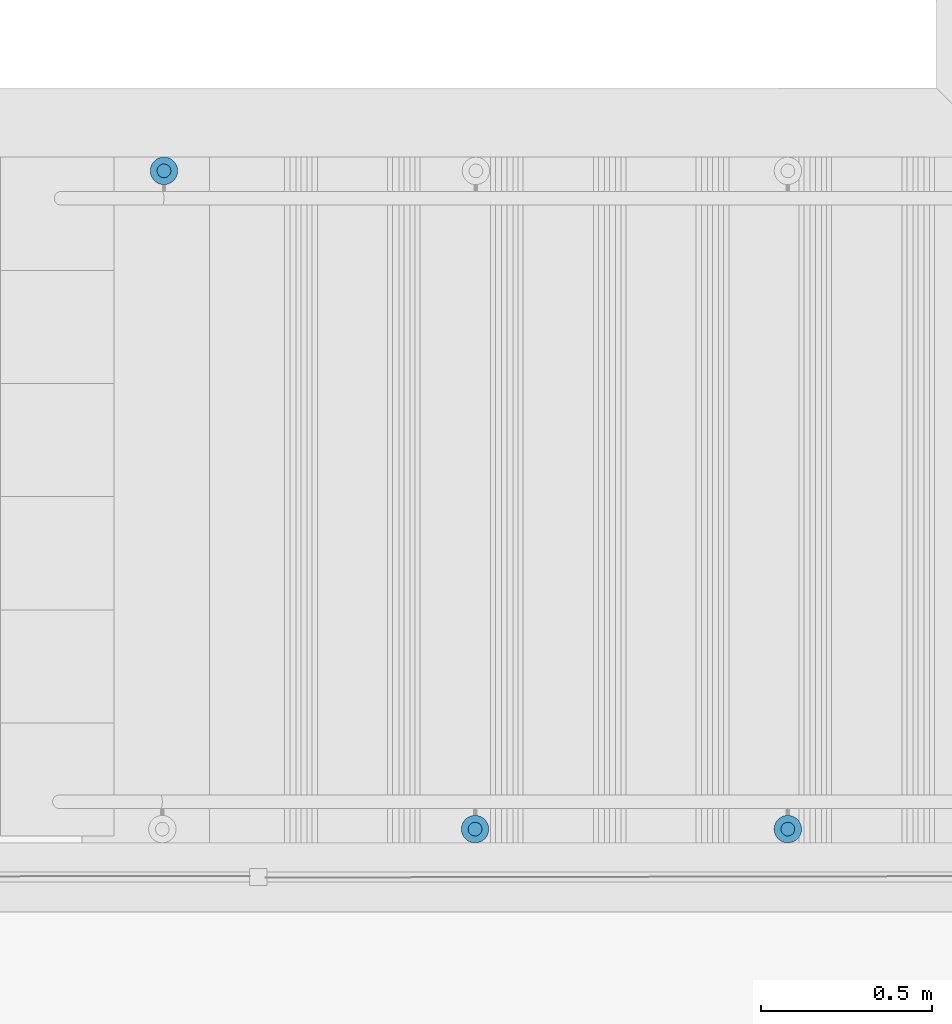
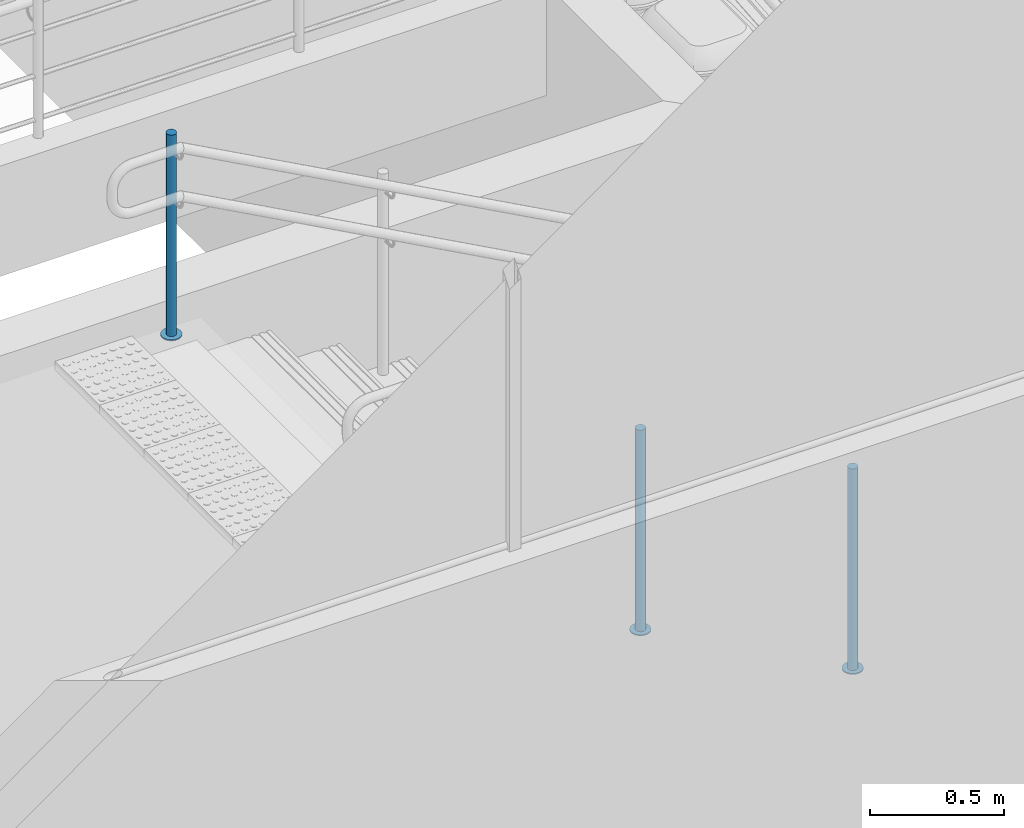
# One storey, part 107 of 237: 6 building element parts, 2 elements without a shape of their own.
"""IFC2X3 building model written with IfcOpenShell, lengths in millimetres."""

from ifc_helpers import new_model, entity, si_unit, converted_unit, derived_unit, money_unit, direction, frame, origin_with_axes, place, context, subcontext, project, spatial, faceted_brep, material, type_object, element, aggregate, save


model = new_model("IFC2X3")

# Units and contexts
model_context = context("Model", 3, precision=0.01, world=origin_with_axes(), true_north=direction((0.0, 1.0)))
body_context = subcontext(model_context, "Body", "Model", "MODEL_VIEW")
ifc_project = project(units=[si_unit("LENGTHUNIT", "METRE", prefix="MILLI"), si_unit("AREAUNIT", "SQUARE_METRE"), si_unit("VOLUMEUNIT", "CUBIC_METRE"), converted_unit("PLANEANGLEUNIT", "DEGREE", entity("IfcPlaneAngleMeasure", 0.0174532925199), si_unit("PLANEANGLEUNIT", "RADIAN"), dimensions=[0, 0, 0, 0, 0, 0, 0]), money_unit("USD"), converted_unit("TIMEUNIT", "Year", entity("IfcTimeMeasure", 31556926.0), si_unit("TIMEUNIT", "SECOND"), dimensions=[0, 0, 1, 0, 0, 0, 0]), si_unit("MASSUNIT", "GRAM", prefix="KILO"), si_unit("THERMODYNAMICTEMPERATUREUNIT", "DEGREE_CELSIUS"), si_unit("LUMINOUSINTENSITYUNIT", "LUMEN"), si_unit("ENERGYUNIT", "JOULE", prefix="MEGA"), derived_unit("THERMALCONDUCTANCEUNIT", [(si_unit("POWERUNIT", "WATT"), 1), (si_unit("LENGTHUNIT", "METRE"), -1), (si_unit("THERMODYNAMICTEMPERATUREUNIT", "KELVIN"), -1)]), derived_unit("SPECIFICHEATCAPACITYUNIT", [(si_unit("ENERGYUNIT", "JOULE"), 1), (si_unit("MASSUNIT", "GRAM", prefix="KILO"), -1), (si_unit("THERMODYNAMICTEMPERATUREUNIT", "KELVIN"), -1)]), derived_unit("MASSDENSITYUNIT", [(si_unit("MASSUNIT", "GRAM", prefix="KILO"), 1), (si_unit("VOLUMEUNIT", "CUBIC_METRE"), -1)])], contexts=[model_context])

# Site, building, storey
site_placement = place(None, origin_with_axes())
site = spatial("IfcSite", under=ifc_project, at=site_placement, Name="Local", CompositionType="ELEMENT")
building_placement = place(site_placement, origin_with_axes())
building = spatial("IfcBuilding", under=site, at=building_placement, Name="Construção", CompositionType="ELEMENT")
storey_placement = place(building_placement, origin_with_axes())
storey = spatial("IfcBuildingStorey", under=building, at=storey_placement, Name="Pavimento Térreo", CompositionType="ELEMENT", Elevation=0.0)

# Railing, building element parts
railing_type = type_object("IfcRailingType", Name="Tipo de Guarda-Corpo", PredefinedType="NOTDEFINED")
railing_1_placement = place(storey_placement, frame((66896.327552, 25657.5940361, -3366.72358116), z_axis=(0.0, 0.0, 1.0), x_axis=(1.0, 0.0, 0.0)))
railing_1 = element("IfcRailing", 1, at=railing_1_placement, inside=storey, type_object=railing_type, Name="Guarda-Corpo - 002", PredefinedType="NOTDEFINED")
ifc_material_1 = material(Name="Aço - Inoxidável")
building_element_part_1_placement = place(railing_1_placement, origin_with_axes())
building_element_part_1 = element("IfcBuildingElementPart", 2, at=building_element_part_1_placement, material=ifc_material_1, Name="Aço - Inoxidável", context=body_context, shape_type="Brep", body=[
    faceted_brep([(-3677.57125977, -20.3038449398, 2008.60429594), (-3681.04422333, -20.0, 2008.60429594), (-3681.04422333, -20.0, 2923.60429594), (-3677.57125977, -20.3038449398, 2923.60429594), (-3684.51718688, -20.3038449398, 2008.60429594), (-3674.20382046, -21.2061475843, 2008.60429594), (-3671.04422333, -22.6794919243, 2008.60429594), (-3668.18847113, -24.6791111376, 2008.60429594), (-3665.72333446, -27.1442478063, 2008.60429594), (-3663.72371525, -30.0, 2008.60429594), (-3662.25037091, -33.1595971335, 2008.60429594), (-3661.34806827, -36.5270364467, 2008.60429594), (-3661.04422333, -40.0, 2008.60429594), (-3661.34806827, -43.4729635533, 2008.60429594), (-3662.25037091, -46.8404028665, 2008.60429594), (-3663.72371525, -50.0, 2008.60429594), (-3665.72333446, -52.8557521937, 2008.60429594), (-3668.18847113, -55.3208888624, 2008.60429594), (-3671.04422333, -57.3205080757, 2008.60429594), (-3674.20382046, -58.7938524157, 2008.60429594), (-3677.57125977, -59.6961550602, 2008.60429594), (-3681.04422333, -60.0, 2008.60429594), (-3684.51718688, -59.6961550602, 2008.60429594), (-3687.88462619, -58.7938524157, 2008.60429594), (-3691.04422333, -57.3205080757, 2008.60429594), (-3693.89997552, -55.3208888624, 2008.60429594), (-3696.36511219, -52.8557521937, 2008.60429594), (-3698.3647314, -50.0, 2008.60429594), (-3699.83807574, -46.8404028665, 2008.60429594), (-3700.74037839, -43.4729635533, 2008.60429594), (-3701.04422333, -40.0, 2008.60429594), (-3700.74037839, -36.5270364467, 2008.60429594), (-3699.83807574, -33.1595971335, 2008.60429594), (-3698.3647314, -30.0, 2008.60429594), (-3696.36511219, -27.1442478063, 2008.60429594), (-3693.89997552, -24.6791111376, 2008.60429594), (-3691.04422333, -22.6794919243, 2008.60429594), (-3687.88462619, -21.2061475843, 2008.60429594), (-3684.51718688, -20.3038449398, 2923.60429594), (-3661.34806827, -43.4729635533, 2923.60429594), (-3661.04422333, -40.0, 2923.60429594), (-3661.34806827, -36.5270364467, 2923.60429594), (-3662.25037091, -33.1595971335, 2923.60429594), (-3663.72371525, -30.0, 2923.60429594), (-3665.72333446, -27.1442478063, 2923.60429594), (-3668.18847113, -24.6791111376, 2923.60429594), (-3671.04422333, -22.6794919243, 2923.60429594), (-3674.20382046, -21.2061475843, 2923.60429594), (-3687.88462619, -21.2061475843, 2923.60429594), (-3691.04422333, -22.6794919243, 2923.60429594), (-3693.89997552, -24.6791111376, 2923.60429594), (-3696.36511219, -27.1442478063, 2923.60429594), (-3698.3647314, -30.0, 2923.60429594), (-3699.83807574, -33.1595971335, 2923.60429594), (-3700.74037839, -36.5270364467, 2923.60429594), (-3701.04422333, -40.0, 2923.60429594), (-3700.74037839, -43.4729635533, 2923.60429594), (-3699.83807574, -46.8404028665, 2923.60429594), (-3698.3647314, -50.0, 2923.60429594), (-3696.36511219, -52.8557521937, 2923.60429594), (-3693.89997552, -55.3208888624, 2923.60429594), (-3691.04422333, -57.3205080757, 2923.60429594), (-3687.88462619, -58.7938524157, 2923.60429594), (-3684.51718688, -59.6961550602, 2923.60429594), (-3681.04422333, -60.0, 2923.60429594), (-3677.57125977, -59.6961550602, 2923.60429594), (-3674.20382046, -58.7938524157, 2923.60429594), (-3671.04422333, -57.3205080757, 2923.60429594), (-3668.18847113, -55.3208888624, 2923.60429594), (-3665.72333446, -52.8557521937, 2923.60429594), (-3663.72371525, -50.0, 2923.60429594), (-3662.25037091, -46.8404028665, 2923.60429594)], [[[0, 1, 2, 3]], [[4, 1, 0, 5, 6, 7, 8, 9, 10, 11, 12, 13, 14, 15, 16, 17, 18, 19, 20, 21, 22, 23, 24, 25, 26, 27, 28, 29, 30, 31, 32, 33, 34, 35, 36, 37]], [[1, 4, 38, 2]], [[39, 40, 41, 42, 43, 44, 45, 46, 47, 3, 2, 38, 48, 49, 50, 51, 52, 53, 54, 55, 56, 57, 58, 59, 60, 61, 62, 63, 64, 65, 66, 67, 68, 69, 70, 71]], [[5, 0, 3, 47]], [[6, 5, 47, 46]], [[7, 6, 46, 45]], [[8, 7, 45, 44]], [[9, 8, 44, 43]], [[10, 9, 43, 42]], [[11, 10, 42, 41]], [[12, 11, 41, 40]], [[13, 12, 40, 39]], [[14, 13, 39, 71]], [[15, 14, 71, 70]], [[16, 15, 70, 69]], [[17, 16, 69, 68]], [[18, 17, 68, 67]], [[19, 18, 67, 66]], [[20, 19, 66, 65]], [[21, 20, 65, 64]], [[22, 21, 64, 63]], [[23, 22, 63, 62]], [[24, 23, 62, 61]], [[25, 24, 61, 60]], [[26, 25, 60, 59]], [[27, 26, 59, 58]], [[28, 27, 58, 57]], [[29, 28, 57, 56]], [[30, 29, 56, 55]], [[31, 30, 55, 54]], [[32, 31, 54, 53]], [[33, 32, 53, 52]], [[34, 33, 52, 51]], [[35, 34, 51, 50]], [[36, 35, 50, 49]], [[37, 36, 49, 48]], [[4, 37, 48, 38]]]),
])
ifc_material_2 = material(Name="Alumínio")
building_element_part_2_placement = place(railing_1_placement, origin_with_axes())
building_element_part_2 = element("IfcBuildingElementPart", 3, at=building_element_part_2_placement, material=ifc_material_2, Name="Alumínio", context=body_context, shape_type="Brep", body=[
    faceted_brep([(-3721.04422333, -40.0, 2003.60429594), (-3720.43653345, -46.9459271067, 2003.60429594), (-3720.43653345, -46.9459271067, 2008.60429594), (-3721.04422333, -40.0, 2008.60429594), (-3720.43653345, -33.0540728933, 2003.60429594), (-3718.63192816, -26.319194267, 2003.60429594), (-3715.68523948, -20.0, 2003.60429594), (-3711.68600105, -14.2884956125, 2003.60429594), (-3706.75572771, -9.35822227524, 2003.60429594), (-3701.04422333, -5.35898384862, 2003.60429594), (-3694.72502906, -2.41229516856, 2003.60429594), (-3687.99015043, -0.607689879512, 2003.60429594), (-3681.04422333, 0.0, 2003.60429594), (-3674.09829622, -0.607689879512, 2003.60429594), (-3667.36341759, -2.41229516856, 2003.60429594), (-3661.04422333, -5.35898384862, 2003.60429594), (-3655.33271894, -9.35822227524, 2003.60429594), (-3650.4024456, -14.2884956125, 2003.60429594), (-3646.40320717, -20.0, 2003.60429594), (-3643.45651849, -26.319194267, 2003.60429594), (-3641.65191321, -33.0540728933, 2003.60429594), (-3641.04422333, -40.0, 2003.60429594), (-3641.65191321, -46.9459271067, 2003.60429594), (-3643.45651849, -53.680805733, 2003.60429594), (-3646.40320717, -60.0, 2003.60429594), (-3650.4024456, -65.7115043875, 2003.60429594), (-3655.33271894, -70.6417777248, 2003.60429594), (-3661.04422333, -74.6410161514, 2003.60429594), (-3667.36341759, -77.5877048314, 2003.60429594), (-3674.09829622, -79.3923101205, 2003.60429594), (-3681.04422333, -80.0, 2003.60429594), (-3687.99015043, -79.3923101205, 2003.60429594), (-3694.72502906, -77.5877048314, 2003.60429594), (-3701.04422333, -74.6410161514, 2003.60429594), (-3706.75572771, -70.6417777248, 2003.60429594), (-3711.68600105, -65.7115043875, 2003.60429594), (-3715.68523948, -60.0, 2003.60429594), (-3718.63192816, -53.680805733, 2003.60429594), (-3718.63192816, -53.680805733, 2008.60429594), (-3715.68523948, -60.0, 2008.60429594), (-3711.68600105, -65.7115043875, 2008.60429594), (-3706.75572771, -70.6417777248, 2008.60429594), (-3701.04422333, -74.6410161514, 2008.60429594), (-3694.72502906, -77.5877048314, 2008.60429594), (-3687.99015043, -79.3923101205, 2008.60429594), (-3681.04422333, -80.0, 2008.60429594), (-3674.09829622, -79.3923101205, 2008.60429594), (-3667.36341759, -77.5877048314, 2008.60429594), (-3661.04422333, -74.6410161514, 2008.60429594), (-3655.33271894, -70.6417777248, 2008.60429594), (-3650.4024456, -65.7115043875, 2008.60429594), (-3646.40320717, -60.0, 2008.60429594), (-3643.45651849, -53.680805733, 2008.60429594), (-3641.65191321, -46.9459271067, 2008.60429594), (-3641.04422333, -40.0, 2008.60429594), (-3641.65191321, -33.0540728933, 2008.60429594), (-3643.45651849, -26.319194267, 2008.60429594), (-3646.40320717, -20.0, 2008.60429594), (-3650.4024456, -14.2884956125, 2008.60429594), (-3655.33271894, -9.35822227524, 2008.60429594), (-3661.04422333, -5.35898384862, 2008.60429594), (-3667.36341759, -2.41229516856, 2008.60429594), (-3674.09829622, -0.607689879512, 2008.60429594), (-3681.04422333, 0.0, 2008.60429594), (-3687.99015043, -0.607689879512, 2008.60429594), (-3694.72502906, -2.41229516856, 2008.60429594), (-3701.04422333, -5.35898384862, 2008.60429594), (-3706.75572771, -9.35822227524, 2008.60429594), (-3711.68600105, -14.2884956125, 2008.60429594), (-3715.68523948, -20.0, 2008.60429594), (-3718.63192816, -26.319194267, 2008.60429594), (-3720.43653345, -33.0540728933, 2008.60429594)], [[[0, 1, 2, 3]], [[0, 4, 5, 6, 7, 8, 9, 10, 11, 12, 13, 14, 15, 16, 17, 18, 19, 20, 21, 22, 23, 24, 25, 26, 27, 28, 29, 30, 31, 32, 33, 34, 35, 36, 37, 1]], [[1, 37, 38, 2]], [[3, 2, 38, 39, 40, 41, 42, 43, 44, 45, 46, 47, 48, 49, 50, 51, 52, 53, 54, 55, 56, 57, 58, 59, 60, 61, 62, 63, 64, 65, 66, 67, 68, 69, 70, 71]], [[4, 0, 3, 71]], [[5, 4, 71, 70]], [[6, 5, 70, 69]], [[7, 6, 69, 68]], [[8, 7, 68, 67]], [[9, 8, 67, 66]], [[10, 9, 66, 65]], [[11, 10, 65, 64]], [[12, 11, 64, 63]], [[13, 12, 63, 62]], [[14, 13, 62, 61]], [[15, 14, 61, 60]], [[16, 15, 60, 59]], [[17, 16, 59, 58]], [[18, 17, 58, 57]], [[19, 18, 57, 56]], [[20, 19, 56, 55]], [[21, 20, 55, 54]], [[22, 21, 54, 53]], [[23, 22, 53, 52]], [[24, 23, 52, 51]], [[25, 24, 51, 50]], [[26, 25, 50, 49]], [[27, 26, 49, 48]], [[28, 27, 48, 47]], [[29, 28, 47, 46]], [[30, 29, 46, 45]], [[31, 30, 45, 44]], [[32, 31, 44, 43]], [[33, 32, 43, 42]], [[34, 33, 42, 41]], [[35, 34, 41, 40]], [[36, 35, 40, 39]], [[37, 36, 39, 38]]]),
])
aggregate(railing_1, [building_element_part_1, building_element_part_2])

railing_2_placement = place(storey_placement, frame((63166.4526815, 23657.7253191, -3364.52588893), z_axis=(0.0, 0.0, 1.0), x_axis=(1.0, 0.0, 0.0)))
railing_2 = element("IfcRailing", 4, at=railing_2_placement, inside=storey, type_object=railing_type, Name="Guarda-Corpo - 001", PredefinedType="NOTDEFINED")
building_element_part_3_placement = place(railing_2_placement, origin_with_axes())
building_element_part_3 = element("IfcBuildingElementPart", 5, at=building_element_part_3_placement, material=ifc_material_1, Name="Aço - Inoxidável", context=body_context, shape_type="Brep", body=[
    faceted_brep([(952.642351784, 20.3038449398, 1512.36375798), (956.115315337, 20.0, 1512.36375798), (956.115315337, 20.0, 2427.36375798), (952.642351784, 20.3038449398, 2427.36375798), (959.588278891, 20.3038449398, 1512.36375798), (949.274912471, 21.2061475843, 1512.36375798), (946.115315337, 22.6794919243, 1512.36375798), (943.259563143, 24.6791111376, 1512.36375798), (940.794426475, 27.1442478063, 1512.36375798), (938.794807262, 30.0, 1512.36375798), (937.321462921, 33.1595971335, 1512.36375798), (936.419160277, 36.5270364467, 1512.36375798), (936.115315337, 40.0, 1512.36375798), (936.419160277, 43.4729635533, 1512.36375798), (937.321462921, 46.8404028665, 1512.36375798), (938.794807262, 50.0, 1512.36375798), (940.794426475, 52.8557521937, 1512.36375798), (943.259563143, 55.3208888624, 1512.36375798), (946.115315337, 57.3205080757, 1512.36375798), (949.274912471, 58.7938524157, 1512.36375798), (952.642351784, 59.6961550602, 1512.36375798), (956.115315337, 60.0, 1512.36375798), (959.588278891, 59.6961550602, 1512.36375798), (962.955718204, 58.7938524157, 1512.36375798), (966.115315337, 57.3205080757, 1512.36375798), (968.971067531, 55.3208888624, 1512.36375798), (971.4362042, 52.8557521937, 1512.36375798), (973.435823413, 50.0, 1512.36375798), (974.909167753, 46.8404028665, 1512.36375798), (975.811470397, 43.4729635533, 1512.36375798), (976.115315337, 40.0, 1512.36375798), (975.811470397, 36.5270364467, 1512.36375798), (974.909167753, 33.1595971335, 1512.36375798), (973.435823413, 30.0, 1512.36375798), (971.4362042, 27.1442478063, 1512.36375798), (968.971067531, 24.6791111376, 1512.36375798), (966.115315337, 22.6794919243, 1512.36375798), (962.955718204, 21.2061475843, 1512.36375798), (959.588278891, 20.3038449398, 2427.36375798), (936.419160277, 43.4729635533, 2427.36375798), (936.115315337, 40.0, 2427.36375798), (936.419160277, 36.5270364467, 2427.36375798), (937.321462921, 33.1595971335, 2427.36375798), (938.794807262, 30.0, 2427.36375798), (940.794426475, 27.1442478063, 2427.36375798), (943.259563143, 24.6791111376, 2427.36375798), (946.115315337, 22.6794919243, 2427.36375798), (949.274912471, 21.2061475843, 2427.36375798), (962.955718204, 21.2061475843, 2427.36375798), (966.115315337, 22.6794919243, 2427.36375798), (968.971067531, 24.6791111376, 2427.36375798), (971.4362042, 27.1442478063, 2427.36375798), (973.435823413, 30.0, 2427.36375798), (974.909167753, 33.1595971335, 2427.36375798), (975.811470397, 36.5270364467, 2427.36375798), (976.115315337, 40.0, 2427.36375798), (975.811470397, 43.4729635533, 2427.36375798), (974.909167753, 46.8404028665, 2427.36375798), (973.435823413, 50.0, 2427.36375798), (971.4362042, 52.8557521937, 2427.36375798), (968.971067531, 55.3208888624, 2427.36375798), (966.115315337, 57.3205080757, 2427.36375798), (962.955718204, 58.7938524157, 2427.36375798), (959.588278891, 59.6961550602, 2427.36375798), (956.115315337, 60.0, 2427.36375798), (952.642351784, 59.6961550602, 2427.36375798), (949.274912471, 58.7938524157, 2427.36375798), (946.115315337, 57.3205080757, 2427.36375798), (943.259563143, 55.3208888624, 2427.36375798), (940.794426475, 52.8557521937, 2427.36375798), (938.794807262, 50.0, 2427.36375798), (937.321462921, 46.8404028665, 2427.36375798)], [[[0, 1, 2, 3]], [[4, 1, 0, 5, 6, 7, 8, 9, 10, 11, 12, 13, 14, 15, 16, 17, 18, 19, 20, 21, 22, 23, 24, 25, 26, 27, 28, 29, 30, 31, 32, 33, 34, 35, 36, 37]], [[1, 4, 38, 2]], [[39, 40, 41, 42, 43, 44, 45, 46, 47, 3, 2, 38, 48, 49, 50, 51, 52, 53, 54, 55, 56, 57, 58, 59, 60, 61, 62, 63, 64, 65, 66, 67, 68, 69, 70, 71]], [[5, 0, 3, 47]], [[6, 5, 47, 46]], [[7, 6, 46, 45]], [[8, 7, 45, 44]], [[9, 8, 44, 43]], [[10, 9, 43, 42]], [[11, 10, 42, 41]], [[12, 11, 41, 40]], [[13, 12, 40, 39]], [[14, 13, 39, 71]], [[15, 14, 71, 70]], [[16, 15, 70, 69]], [[17, 16, 69, 68]], [[18, 17, 68, 67]], [[19, 18, 67, 66]], [[20, 19, 66, 65]], [[21, 20, 65, 64]], [[22, 21, 64, 63]], [[23, 22, 63, 62]], [[24, 23, 62, 61]], [[25, 24, 61, 60]], [[26, 25, 60, 59]], [[27, 26, 59, 58]], [[28, 27, 58, 57]], [[29, 28, 57, 56]], [[30, 29, 56, 55]], [[31, 30, 55, 54]], [[32, 31, 54, 53]], [[33, 32, 53, 52]], [[34, 33, 52, 51]], [[35, 34, 51, 50]], [[36, 35, 50, 49]], [[37, 36, 49, 48]], [[4, 37, 48, 38]]]),
])
building_element_part_4_placement = place(railing_2_placement, origin_with_axes())
building_element_part_4 = element("IfcBuildingElementPart", 6, at=building_element_part_4_placement, material=ifc_material_2, Name="Alumínio", context=body_context, shape_type="Brep", body=[
    faceted_brep([(996.115315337, 40.0, 1507.36375798), (995.507625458, 46.9459271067, 1507.36375798), (995.507625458, 46.9459271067, 1512.36375798), (996.115315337, 40.0, 1512.36375798), (995.507625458, 33.0540728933, 1507.36375798), (993.703020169, 26.319194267, 1507.36375798), (990.756331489, 20.0, 1507.36375798), (986.757093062, 14.2884956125, 1507.36375798), (981.826819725, 9.35822227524, 1507.36375798), (976.115315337, 5.35898384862, 1507.36375798), (969.79612107, 2.41229516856, 1507.36375798), (963.061242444, 0.607689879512, 1507.36375798), (956.115315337, 0.0, 1507.36375798), (949.169388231, 0.607689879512, 1507.36375798), (942.434509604, 2.41229516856, 1507.36375798), (936.115315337, 5.35898384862, 1507.36375798), (930.40381095, 9.35822227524, 1507.36375798), (925.473537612, 14.2884956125, 1507.36375798), (921.474299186, 20.0, 1507.36375798), (918.527610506, 26.319194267, 1507.36375798), (916.723005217, 33.0540728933, 1507.36375798), (916.115315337, 40.0, 1507.36375798), (916.723005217, 46.9459271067, 1507.36375798), (918.527610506, 53.680805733, 1507.36375798), (921.474299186, 60.0, 1507.36375798), (925.473537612, 65.7115043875, 1507.36375798), (930.40381095, 70.6417777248, 1507.36375798), (936.115315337, 74.6410161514, 1507.36375798), (942.434509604, 77.5877048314, 1507.36375798), (949.169388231, 79.3923101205, 1507.36375798), (956.115315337, 80.0, 1507.36375798), (963.061242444, 79.3923101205, 1507.36375798), (969.79612107, 77.5877048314, 1507.36375798), (976.115315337, 74.6410161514, 1507.36375798), (981.826819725, 70.6417777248, 1507.36375798), (986.757093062, 65.7115043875, 1507.36375798), (990.756331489, 60.0, 1507.36375798), (993.703020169, 53.680805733, 1507.36375798), (993.703020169, 53.680805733, 1512.36375798), (990.756331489, 60.0, 1512.36375798), (986.757093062, 65.7115043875, 1512.36375798), (981.826819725, 70.6417777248, 1512.36375798), (976.115315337, 74.6410161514, 1512.36375798), (969.79612107, 77.5877048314, 1512.36375798), (963.061242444, 79.3923101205, 1512.36375798), (956.115315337, 80.0, 1512.36375798), (949.169388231, 79.3923101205, 1512.36375798), (942.434509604, 77.5877048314, 1512.36375798), (936.115315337, 74.6410161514, 1512.36375798), (930.40381095, 70.6417777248, 1512.36375798), (925.473537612, 65.7115043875, 1512.36375798), (921.474299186, 60.0, 1512.36375798), (918.527610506, 53.680805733, 1512.36375798), (916.723005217, 46.9459271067, 1512.36375798), (916.115315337, 40.0, 1512.36375798), (916.723005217, 33.0540728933, 1512.36375798), (918.527610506, 26.319194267, 1512.36375798), (921.474299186, 20.0, 1512.36375798), (925.473537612, 14.2884956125, 1512.36375798), (930.40381095, 9.35822227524, 1512.36375798), (936.115315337, 5.35898384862, 1512.36375798), (942.434509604, 2.41229516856, 1512.36375798), (949.169388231, 0.607689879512, 1512.36375798), (956.115315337, 0.0, 1512.36375798), (963.061242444, 0.607689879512, 1512.36375798), (969.79612107, 2.41229516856, 1512.36375798), (976.115315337, 5.35898384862, 1512.36375798), (981.826819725, 9.35822227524, 1512.36375798), (986.757093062, 14.2884956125, 1512.36375798), (990.756331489, 20.0, 1512.36375798), (993.703020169, 26.319194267, 1512.36375798), (995.507625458, 33.0540728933, 1512.36375798)], [[[0, 1, 2, 3]], [[0, 4, 5, 6, 7, 8, 9, 10, 11, 12, 13, 14, 15, 16, 17, 18, 19, 20, 21, 22, 23, 24, 25, 26, 27, 28, 29, 30, 31, 32, 33, 34, 35, 36, 37, 1]], [[1, 37, 38, 2]], [[3, 2, 38, 39, 40, 41, 42, 43, 44, 45, 46, 47, 48, 49, 50, 51, 52, 53, 54, 55, 56, 57, 58, 59, 60, 61, 62, 63, 64, 65, 66, 67, 68, 69, 70, 71]], [[4, 0, 3, 71]], [[5, 4, 71, 70]], [[6, 5, 70, 69]], [[7, 6, 69, 68]], [[8, 7, 68, 67]], [[9, 8, 67, 66]], [[10, 9, 66, 65]], [[11, 10, 65, 64]], [[12, 11, 64, 63]], [[13, 12, 63, 62]], [[14, 13, 62, 61]], [[15, 14, 61, 60]], [[16, 15, 60, 59]], [[17, 16, 59, 58]], [[18, 17, 58, 57]], [[19, 18, 57, 56]], [[20, 19, 56, 55]], [[21, 20, 55, 54]], [[22, 21, 54, 53]], [[23, 22, 53, 52]], [[24, 23, 52, 51]], [[25, 24, 51, 50]], [[26, 25, 50, 49]], [[27, 26, 49, 48]], [[28, 27, 48, 47]], [[29, 28, 47, 46]], [[30, 29, 46, 45]], [[31, 30, 45, 44]], [[32, 31, 44, 43]], [[33, 32, 43, 42]], [[34, 33, 42, 41]], [[35, 34, 41, 40]], [[36, 35, 40, 39]], [[37, 36, 39, 38]]]),
])
building_element_part_5_placement = place(railing_2_placement, origin_with_axes())
building_element_part_5 = element("IfcBuildingElementPart", 7, at=building_element_part_5_placement, material=ifc_material_1, Name="Aço - Inoxidável", context=body_context, shape_type="Brep", body=[
    faceted_brep([(1864.83528285, 20.3038449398, 1017.14764239), (1868.30824641, 20.0, 1017.14764239), (1868.30824641, 20.0, 1932.14764239), (1864.83528285, 20.3038449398, 1932.14764239), (1871.78120996, 20.3038449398, 1017.14764239), (1861.46784354, 21.2061475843, 1017.14764239), (1858.30824641, 22.6794919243, 1017.14764239), (1855.45249421, 24.6791111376, 1017.14764239), (1852.98735754, 27.1442478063, 1017.14764239), (1850.98773833, 30.0, 1017.14764239), (1849.51439399, 33.1595971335, 1017.14764239), (1848.61209134, 36.5270364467, 1017.14764239), (1848.30824641, 40.0, 1017.14764239), (1848.61209134, 43.4729635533, 1017.14764239), (1849.51439399, 46.8404028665, 1017.14764239), (1850.98773833, 50.0, 1017.14764239), (1852.98735754, 52.8557521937, 1017.14764239), (1855.45249421, 55.3208888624, 1017.14764239), (1858.30824641, 57.3205080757, 1017.14764239), (1861.46784354, 58.7938524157, 1017.14764239), (1864.83528285, 59.6961550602, 1017.14764239), (1868.30824641, 60.0, 1017.14764239), (1871.78120996, 59.6961550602, 1017.14764239), (1875.14864927, 58.7938524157, 1017.14764239), (1878.30824641, 57.3205080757, 1017.14764239), (1881.1639986, 55.3208888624, 1017.14764239), (1883.62913527, 52.8557521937, 1017.14764239), (1885.62875448, 50.0, 1017.14764239), (1887.10209882, 46.8404028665, 1017.14764239), (1888.00440147, 43.4729635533, 1017.14764239), (1888.30824641, 40.0, 1017.14764239), (1888.00440147, 36.5270364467, 1017.14764239), (1887.10209882, 33.1595971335, 1017.14764239), (1885.62875448, 30.0, 1017.14764239), (1883.62913527, 27.1442478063, 1017.14764239), (1881.1639986, 24.6791111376, 1017.14764239), (1878.30824641, 22.6794919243, 1017.14764239), (1875.14864927, 21.2061475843, 1017.14764239), (1871.78120996, 20.3038449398, 1932.14764239), (1848.61209134, 43.4729635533, 1932.14764239), (1848.30824641, 40.0, 1932.14764239), (1848.61209134, 36.5270364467, 1932.14764239), (1849.51439399, 33.1595971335, 1932.14764239), (1850.98773833, 30.0, 1932.14764239), (1852.98735754, 27.1442478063, 1932.14764239), (1855.45249421, 24.6791111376, 1932.14764239), (1858.30824641, 22.6794919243, 1932.14764239), (1861.46784354, 21.2061475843, 1932.14764239), (1875.14864927, 21.2061475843, 1932.14764239), (1878.30824641, 22.6794919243, 1932.14764239), (1881.1639986, 24.6791111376, 1932.14764239), (1883.62913527, 27.1442478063, 1932.14764239), (1885.62875448, 30.0, 1932.14764239), (1887.10209882, 33.1595971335, 1932.14764239), (1888.00440147, 36.5270364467, 1932.14764239), (1888.30824641, 40.0, 1932.14764239), (1888.00440147, 43.4729635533, 1932.14764239), (1887.10209882, 46.8404028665, 1932.14764239), (1885.62875448, 50.0, 1932.14764239), (1883.62913527, 52.8557521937, 1932.14764239), (1881.1639986, 55.3208888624, 1932.14764239), (1878.30824641, 57.3205080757, 1932.14764239), (1875.14864927, 58.7938524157, 1932.14764239), (1871.78120996, 59.6961550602, 1932.14764239), (1868.30824641, 60.0, 1932.14764239), (1864.83528285, 59.6961550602, 1932.14764239), (1861.46784354, 58.7938524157, 1932.14764239), (1858.30824641, 57.3205080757, 1932.14764239), (1855.45249421, 55.3208888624, 1932.14764239), (1852.98735754, 52.8557521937, 1932.14764239), (1850.98773833, 50.0, 1932.14764239), (1849.51439399, 46.8404028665, 1932.14764239)], [[[0, 1, 2, 3]], [[4, 1, 0, 5, 6, 7, 8, 9, 10, 11, 12, 13, 14, 15, 16, 17, 18, 19, 20, 21, 22, 23, 24, 25, 26, 27, 28, 29, 30, 31, 32, 33, 34, 35, 36, 37]], [[1, 4, 38, 2]], [[39, 40, 41, 42, 43, 44, 45, 46, 47, 3, 2, 38, 48, 49, 50, 51, 52, 53, 54, 55, 56, 57, 58, 59, 60, 61, 62, 63, 64, 65, 66, 67, 68, 69, 70, 71]], [[5, 0, 3, 47]], [[6, 5, 47, 46]], [[7, 6, 46, 45]], [[8, 7, 45, 44]], [[9, 8, 44, 43]], [[10, 9, 43, 42]], [[11, 10, 42, 41]], [[12, 11, 41, 40]], [[13, 12, 40, 39]], [[14, 13, 39, 71]], [[15, 14, 71, 70]], [[16, 15, 70, 69]], [[17, 16, 69, 68]], [[18, 17, 68, 67]], [[19, 18, 67, 66]], [[20, 19, 66, 65]], [[21, 20, 65, 64]], [[22, 21, 64, 63]], [[23, 22, 63, 62]], [[24, 23, 62, 61]], [[25, 24, 61, 60]], [[26, 25, 60, 59]], [[27, 26, 59, 58]], [[28, 27, 58, 57]], [[29, 28, 57, 56]], [[30, 29, 56, 55]], [[31, 30, 55, 54]], [[32, 31, 54, 53]], [[33, 32, 53, 52]], [[34, 33, 52, 51]], [[35, 34, 51, 50]], [[36, 35, 50, 49]], [[37, 36, 49, 48]], [[4, 37, 48, 38]]]),
])
building_element_part_6_placement = place(railing_2_placement, origin_with_axes())
building_element_part_6 = element("IfcBuildingElementPart", 8, at=building_element_part_6_placement, material=ifc_material_2, Name="Alumínio", context=body_context, shape_type="Brep", body=[
    faceted_brep([(1908.30824641, 40.0, 1012.14764239), (1907.70055653, 46.9459271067, 1012.14764239), (1907.70055653, 46.9459271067, 1017.14764239), (1908.30824641, 40.0, 1017.14764239), (1907.70055653, 33.0540728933, 1012.14764239), (1905.89595124, 26.319194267, 1012.14764239), (1902.94926256, 20.0, 1012.14764239), (1898.95002413, 14.2884956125, 1012.14764239), (1894.01975079, 9.35822227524, 1012.14764239), (1888.30824641, 5.35898384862, 1012.14764239), (1881.98905214, 2.41229516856, 1012.14764239), (1875.25417351, 0.607689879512, 1012.14764239), (1868.30824641, 0.0, 1012.14764239), (1861.3623193, 0.607689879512, 1012.14764239), (1854.62744067, 2.41229516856, 1012.14764239), (1848.30824641, 5.35898384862, 1012.14764239), (1842.59674202, 9.35822227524, 1012.14764239), (1837.66646868, 14.2884956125, 1012.14764239), (1833.66723025, 20.0, 1012.14764239), (1830.72054157, 26.319194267, 1012.14764239), (1828.91593628, 33.0540728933, 1012.14764239), (1828.30824641, 40.0, 1012.14764239), (1828.91593628, 46.9459271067, 1012.14764239), (1830.72054157, 53.680805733, 1012.14764239), (1833.66723025, 60.0, 1012.14764239), (1837.66646868, 65.7115043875, 1012.14764239), (1842.59674202, 70.6417777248, 1012.14764239), (1848.30824641, 74.6410161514, 1012.14764239), (1854.62744067, 77.5877048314, 1012.14764239), (1861.3623193, 79.3923101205, 1012.14764239), (1868.30824641, 80.0, 1012.14764239), (1875.25417351, 79.3923101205, 1012.14764239), (1881.98905214, 77.5877048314, 1012.14764239), (1888.30824641, 74.6410161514, 1012.14764239), (1894.01975079, 70.6417777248, 1012.14764239), (1898.95002413, 65.7115043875, 1012.14764239), (1902.94926256, 60.0, 1012.14764239), (1905.89595124, 53.680805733, 1012.14764239), (1905.89595124, 53.680805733, 1017.14764239), (1902.94926256, 60.0, 1017.14764239), (1898.95002413, 65.7115043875, 1017.14764239), (1894.01975079, 70.6417777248, 1017.14764239), (1888.30824641, 74.6410161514, 1017.14764239), (1881.98905214, 77.5877048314, 1017.14764239), (1875.25417351, 79.3923101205, 1017.14764239), (1868.30824641, 80.0, 1017.14764239), (1861.3623193, 79.3923101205, 1017.14764239), (1854.62744067, 77.5877048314, 1017.14764239), (1848.30824641, 74.6410161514, 1017.14764239), (1842.59674202, 70.6417777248, 1017.14764239), (1837.66646868, 65.7115043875, 1017.14764239), (1833.66723025, 60.0, 1017.14764239), (1830.72054157, 53.680805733, 1017.14764239), (1828.91593628, 46.9459271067, 1017.14764239), (1828.30824641, 40.0, 1017.14764239), (1828.91593628, 33.0540728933, 1017.14764239), (1830.72054157, 26.319194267, 1017.14764239), (1833.66723025, 20.0, 1017.14764239), (1837.66646868, 14.2884956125, 1017.14764239), (1842.59674202, 9.35822227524, 1017.14764239), (1848.30824641, 5.35898384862, 1017.14764239), (1854.62744067, 2.41229516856, 1017.14764239), (1861.3623193, 0.607689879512, 1017.14764239), (1868.30824641, 0.0, 1017.14764239), (1875.25417351, 0.607689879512, 1017.14764239), (1881.98905214, 2.41229516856, 1017.14764239), (1888.30824641, 5.35898384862, 1017.14764239), (1894.01975079, 9.35822227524, 1017.14764239), (1898.95002413, 14.2884956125, 1017.14764239), (1902.94926256, 20.0, 1017.14764239), (1905.89595124, 26.319194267, 1017.14764239), (1907.70055653, 33.0540728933, 1017.14764239)], [[[0, 1, 2, 3]], [[0, 4, 5, 6, 7, 8, 9, 10, 11, 12, 13, 14, 15, 16, 17, 18, 19, 20, 21, 22, 23, 24, 25, 26, 27, 28, 29, 30, 31, 32, 33, 34, 35, 36, 37, 1]], [[1, 37, 38, 2]], [[3, 2, 38, 39, 40, 41, 42, 43, 44, 45, 46, 47, 48, 49, 50, 51, 52, 53, 54, 55, 56, 57, 58, 59, 60, 61, 62, 63, 64, 65, 66, 67, 68, 69, 70, 71]], [[4, 0, 3, 71]], [[5, 4, 71, 70]], [[6, 5, 70, 69]], [[7, 6, 69, 68]], [[8, 7, 68, 67]], [[9, 8, 67, 66]], [[10, 9, 66, 65]], [[11, 10, 65, 64]], [[12, 11, 64, 63]], [[13, 12, 63, 62]], [[14, 13, 62, 61]], [[15, 14, 61, 60]], [[16, 15, 60, 59]], [[17, 16, 59, 58]], [[18, 17, 58, 57]], [[19, 18, 57, 56]], [[20, 19, 56, 55]], [[21, 20, 55, 54]], [[22, 21, 54, 53]], [[23, 22, 53, 52]], [[24, 23, 52, 51]], [[25, 24, 51, 50]], [[26, 25, 50, 49]], [[27, 26, 49, 48]], [[28, 27, 48, 47]], [[29, 28, 47, 46]], [[30, 29, 46, 45]], [[31, 30, 45, 44]], [[32, 31, 44, 43]], [[33, 32, 43, 42]], [[34, 33, 42, 41]], [[35, 34, 41, 40]], [[36, 35, 40, 39]], [[37, 36, 39, 38]]]),
])
aggregate(railing_2, [building_element_part_3, building_element_part_4, building_element_part_5, building_element_part_6])

save(model, "model.ifc")
